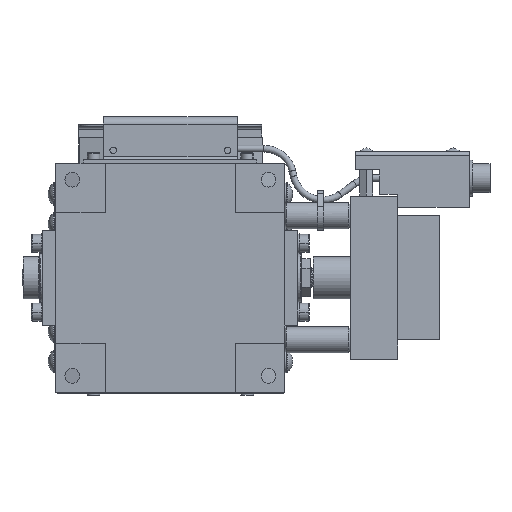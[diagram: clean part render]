
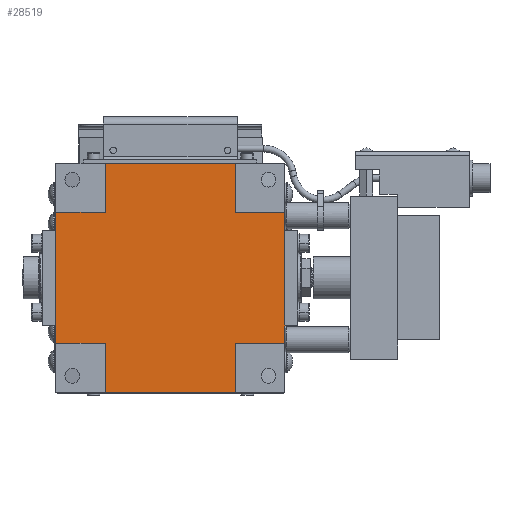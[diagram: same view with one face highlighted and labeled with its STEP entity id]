
A CAD part, front view. The second image highlights one B-rep face of the part: STEP entity #28519.
In plain terms, the highlighted planar face has unit normal (0, -1, 0).
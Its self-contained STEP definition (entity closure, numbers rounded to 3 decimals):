
#751 = DIRECTION ( 'NONE',  ( -1., 0., 0. ) ) ;
#944 = VERTEX_POINT ( 'NONE', #15675 ) ;
#1353 = ORIENTED_EDGE ( 'NONE', *, *, #34549, .T. ) ;
#1864 = LINE ( 'NONE', #26234, #23539 ) ;
#1949 = LINE ( 'NONE', #21398, #17630 ) ;
#2259 = VECTOR ( 'NONE', #32873, 1000. ) ;
#2395 = VECTOR ( 'NONE', #37087, 1000. ) ;
#2871 = CARTESIAN_POINT ( 'NONE',  ( 20., 0.3, 20. ) ) ;
#2916 = ORIENTED_EDGE ( 'NONE', *, *, #21657, .T. ) ;
#3171 = ORIENTED_EDGE ( 'NONE', *, *, #13087, .T. ) ;
#3229 = DIRECTION ( 'NONE',  ( 0., 0., -1. ) ) ;
#3389 = LINE ( 'NONE', #11140, #19993 ) ;
#3938 = LINE ( 'NONE', #9235, #10868 ) ;
#4167 = ORIENTED_EDGE ( 'NONE', *, *, #18609, .T. ) ;
#5133 = EDGE_CURVE ( 'NONE', #6961, #31401, #3938, .T. ) ;
#5929 = EDGE_CURVE ( 'NONE', #38203, #10486, #26471, .T. ) ;
#6551 = FACE_OUTER_BOUND ( 'NONE', #9222, .T. ) ;
#6961 = VERTEX_POINT ( 'NONE', #34713 ) ;
#7117 = EDGE_CURVE ( 'NONE', #35250, #10961, #1949, .T. ) ;
#7232 = VECTOR ( 'NONE', #19155, 1000. ) ;
#7688 = CARTESIAN_POINT ( 'NONE',  ( -35., 0.3, 20. ) ) ;
#7833 = CARTESIAN_POINT ( 'NONE',  ( -20., 0.3, 35. ) ) ;
#8120 = ORIENTED_EDGE ( 'NONE', *, *, #14851, .T. ) ;
#8674 = EDGE_CURVE ( 'NONE', #944, #38203, #1864, .T. ) ;
#9222 = EDGE_LOOP ( 'NONE', ( #26639, #4167, #2916, #8120, #36041, #19820, #23897, #3171, #33482, #26893, #1353, #9596 ) ) ;
#9235 = CARTESIAN_POINT ( 'NONE',  ( 20., 0.3, -20. ) ) ;
#9419 = EDGE_CURVE ( 'NONE', #28858, #6961, #30339, .T. ) ;
#9596 = ORIENTED_EDGE ( 'NONE', *, *, #9419, .T. ) ;
#10308 = EDGE_CURVE ( 'NONE', #10961, #18087, #10967, .T. ) ;
#10486 = VERTEX_POINT ( 'NONE', #36565 ) ;
#10868 = VECTOR ( 'NONE', #27134, 1000. ) ;
#10961 = VERTEX_POINT ( 'NONE', #21969 ) ;
#10967 = LINE ( 'NONE', #14806, #33546 ) ;
#11140 = CARTESIAN_POINT ( 'NONE',  ( 20., 0.3, 20. ) ) ;
#11549 = DIRECTION ( 'NONE',  ( 1., 0., 0. ) ) ;
#12572 = VECTOR ( 'NONE', #32116, 1000. ) ;
#12837 = VERTEX_POINT ( 'NONE', #32846 ) ;
#13087 = EDGE_CURVE ( 'NONE', #18087, #944, #15852, .T. ) ;
#13993 = DIRECTION ( 'NONE',  ( -1., 0., 0. ) ) ;
#14803 = CARTESIAN_POINT ( 'NONE',  ( -35., 0.3, 20. ) ) ;
#14806 = CARTESIAN_POINT ( 'NONE',  ( -35., 0.3, 20. ) ) ;
#14851 = EDGE_CURVE ( 'NONE', #15999, #29499, #20393, .T. ) ;
#15675 = CARTESIAN_POINT ( 'NONE',  ( -35., 0.3, -20. ) ) ;
#15852 = LINE ( 'NONE', #14803, #37942 ) ;
#15999 = VERTEX_POINT ( 'NONE', #26803 ) ;
#16239 = LINE ( 'NONE', #7833, #2395 ) ;
#16944 = CARTESIAN_POINT ( 'NONE',  ( 20., 0.3, -35. ) ) ;
#17630 = VECTOR ( 'NONE', #3229, 1000. ) ;
#17774 = DIRECTION ( 'NONE',  ( 0., 0., -1. ) ) ;
#18087 = VERTEX_POINT ( 'NONE', #7688 ) ;
#18137 = DIRECTION ( 'NONE',  ( 0., 1., 0. ) ) ;
#18390 = PLANE ( 'NONE',  #34380 ) ;
#18609 = EDGE_CURVE ( 'NONE', #31401, #12837, #31669, .T. ) ;
#18632 = VECTOR ( 'NONE', #28614, 1000. ) ;
#19155 = DIRECTION ( 'NONE',  ( 0., 0., 1. ) ) ;
#19820 = ORIENTED_EDGE ( 'NONE', *, *, #7117, .T. ) ;
#19981 = VECTOR ( 'NONE', #11549, 1000. ) ;
#19993 = VECTOR ( 'NONE', #13993, 1000. ) ;
#20393 = LINE ( 'NONE', #2871, #12572 ) ;
#21143 = CARTESIAN_POINT ( 'NONE',  ( 20., 0.3, -35. ) ) ;
#21398 = CARTESIAN_POINT ( 'NONE',  ( -20., 0.3, 20. ) ) ;
#21657 = EDGE_CURVE ( 'NONE', #12837, #15999, #3389, .T. ) ;
#21969 = CARTESIAN_POINT ( 'NONE',  ( -20., 0.3, 20. ) ) ;
#22809 = EDGE_CURVE ( 'NONE', #29499, #35250, #16239, .T. ) ;
#23539 = VECTOR ( 'NONE', #38067, 1000. ) ;
#23897 = ORIENTED_EDGE ( 'NONE', *, *, #10308, .T. ) ;
#25441 = CARTESIAN_POINT ( 'NONE',  ( -20., 0.3, -35. ) ) ;
#25509 = LINE ( 'NONE', #34766, #19981 ) ;
#26234 = CARTESIAN_POINT ( 'NONE',  ( -35., 0.3, -20. ) ) ;
#26471 = LINE ( 'NONE', #25441, #18632 ) ;
#26639 = ORIENTED_EDGE ( 'NONE', *, *, #5133, .T. ) ;
#26803 = CARTESIAN_POINT ( 'NONE',  ( 20., 0.3, 20. ) ) ;
#26893 = ORIENTED_EDGE ( 'NONE', *, *, #5929, .T. ) ;
#27134 = DIRECTION ( 'NONE',  ( 1., 0., 0. ) ) ;
#27447 = CARTESIAN_POINT ( 'NONE',  ( 35., 0.3, -20. ) ) ;
#28519 = ADVANCED_FACE ( 'NONE', ( #6551 ), #18390, .F. ) ;
#28600 = CARTESIAN_POINT ( 'NONE',  ( 20., 0.3, 35. ) ) ;
#28614 = DIRECTION ( 'NONE',  ( 0., 0., -1. ) ) ;
#28858 = VERTEX_POINT ( 'NONE', #16944 ) ;
#29499 = VERTEX_POINT ( 'NONE', #28600 ) ;
#29957 = CARTESIAN_POINT ( 'NONE',  ( 0., 0.3, 0. ) ) ;
#30339 = LINE ( 'NONE', #21143, #2259 ) ;
#30751 = CARTESIAN_POINT ( 'NONE',  ( -20., 0.3, -20. ) ) ;
#31401 = VERTEX_POINT ( 'NONE', #27447 ) ;
#31669 = LINE ( 'NONE', #33585, #7232 ) ;
#32116 = DIRECTION ( 'NONE',  ( 0., 0., 1. ) ) ;
#32846 = CARTESIAN_POINT ( 'NONE',  ( 35., 0.3, 20. ) ) ;
#32873 = DIRECTION ( 'NONE',  ( 0., 0., 1. ) ) ;
#33482 = ORIENTED_EDGE ( 'NONE', *, *, #8674, .T. ) ;
#33546 = VECTOR ( 'NONE', #35062, 1000. ) ;
#33585 = CARTESIAN_POINT ( 'NONE',  ( 35., 0.3, 20. ) ) ;
#34380 = AXIS2_PLACEMENT_3D ( 'NONE', #29957, #18137, #751 ) ;
#34549 = EDGE_CURVE ( 'NONE', #10486, #28858, #25509, .T. ) ;
#34713 = CARTESIAN_POINT ( 'NONE',  ( 20., 0.3, -20. ) ) ;
#34766 = CARTESIAN_POINT ( 'NONE',  ( -20., 0.3, -35. ) ) ;
#35062 = DIRECTION ( 'NONE',  ( -1., 0., 0. ) ) ;
#35250 = VERTEX_POINT ( 'NONE', #35971 ) ;
#35971 = CARTESIAN_POINT ( 'NONE',  ( -20., 0.3, 35. ) ) ;
#36041 = ORIENTED_EDGE ( 'NONE', *, *, #22809, .T. ) ;
#36565 = CARTESIAN_POINT ( 'NONE',  ( -20., 0.3, -35. ) ) ;
#37087 = DIRECTION ( 'NONE',  ( -1., 0., 0. ) ) ;
#37942 = VECTOR ( 'NONE', #17774, 1000. ) ;
#38067 = DIRECTION ( 'NONE',  ( 1., 0., 0. ) ) ;
#38203 = VERTEX_POINT ( 'NONE', #30751 ) ;
